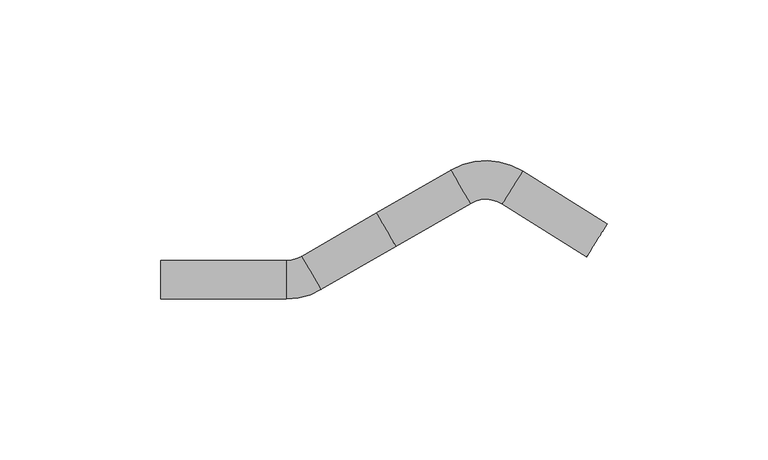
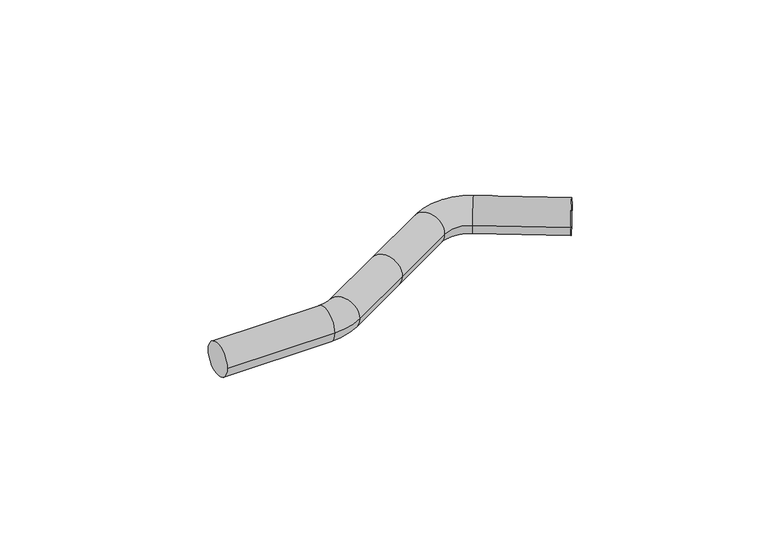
"""IFC4 building model written with IfcOpenShell, lengths in millimetres: pipe fitting geometry, KAN-therm Steel obejście : KAN-therm Steel obejście."""

from ifc_helpers import new_model, si_unit, point, frame, origin, place, context, project, spatial, circle_curve, ellipse_curve, trimmed, source, transform, mapped, element, save
from ifc_brep_helpers import plane_surface, cylinder_surface, revolved_surface, advanced_brep


def pipe_fitting_25d2a00c(model_context):
    return source(origin(), model_context, "Body", "AdvancedBrep", [
        advanced_brep(
        [(0.0, -6.0, 0.0), (0.0, 6.0, 0.0), (39.0, -6.0, 0.0), (39.0, 6.0, 0.0), (43.75, 7.2727587, 0.0), (49.75, -3.1195462, 0.0), (112.4044558, 33.726036, 0.0), (90.25, 34.1195462, 0.0), (96.25, 23.7272413, 0.0), (106.0391781, 23.5533648, 0.0), (132.3192079, 7.1120792, 0.0), (138.6837228, 17.2852277, 0.0), (73.0, 10.3038476, 0.0), (67.0, 20.6961524, 0.0)],
        [
            (0, 1, circle_curve(frame((0.0, 0.0, 0.0), z_axis=(-1.0, 0.0, 0.0), x_axis=(0.0, 1.0, 0.0)), 6.0)),
            (1, 0, circle_curve(frame((0.0, 0.0, 0.0), z_axis=(-1.0, 0.0, 0.0), x_axis=(0.0, 1.0, 0.0)), 6.0)),
            (0, 2),
            (2, 3, circle_curve(frame((39.0, 0.0, 0.0), z_axis=(-1.0, 0.0, 0.0), x_axis=(0.0, 1.0, 0.0)), 6.0)),
            (3, 1),
            (3, 2, circle_curve(frame((39.0, 0.0, 0.0), z_axis=(-1.0, 0.0, 0.0), x_axis=(0.0, 1.0, 0.0)), 6.0)),
            (4, 3, circle_curve(frame((39.0, 15.5, 0.0), z_axis=(0.0, 0.0, -1.0), x_axis=(0.0, -1.0, 0.0)), 9.5)),
            (2, 5, circle_curve(frame((39.0, 15.5, 0.0), z_axis=(0.0, 0.0, 1.0), x_axis=(0.0, -1.0, 0.0)), 21.5)),
            (5, 4, circle_curve(frame((46.75, 2.0766062, 0.0), z_axis=(-0.8660254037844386, -0.5000000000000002, 0.0), x_axis=(-0.5000000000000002, 0.8660254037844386, 0.0)), 6.0)),
            (4, 5, circle_curve(frame((46.75, 2.0766062, 0.0), z_axis=(-0.8660254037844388, -0.49999999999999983, 0.0), x_axis=(-0.49999999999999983, 0.8660254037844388, 0.0)), 6.0)),
            (6, 7, circle_curve(frame((101.0, 15.5, 0.0), z_axis=(0.0, 0.0, 1.0), x_axis=(-0.500000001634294, 0.8660254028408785, 0.0)), 21.5)),
            (7, 8, circle_curve(frame((93.25, 28.9233938, 0.0), z_axis=(0.8660254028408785, 0.500000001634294, 0.0), x_axis=(-0.500000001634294, 0.8660254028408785, 0.0)), 6.0)),
            (8, 9, circle_curve(frame((101.0, 15.5, 0.0), z_axis=(0.0, 0.0, -1.0), x_axis=(-0.500000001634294, 0.8660254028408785, 0.0)), 9.5)),
            (9, 6, circle_curve(frame((109.221817, 28.6397004, 0.0), z_axis=(-0.8477226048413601, 0.5304398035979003, 0.0), x_axis=(0.5304398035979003, 0.8477226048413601, 0.0)), 6.0)),
            (8, 7, circle_curve(frame((93.25, 28.9233938, 0.0), z_axis=(0.8660254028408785, 0.500000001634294, 0.0), x_axis=(-0.500000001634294, 0.8660254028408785, 0.0)), 6.0)),
            (6, 9, circle_curve(frame((109.221817, 28.6397004, 0.0), z_axis=(-0.8477226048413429, 0.5304398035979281, 0.0), x_axis=(0.5304398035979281, 0.8477226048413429, 0.0)), 6.0)),
            (10, 11, circle_curve(frame((135.5014653, 12.1986535, 0.0), z_axis=(0.8477623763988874, -0.5303762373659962, 0.0), x_axis=(0.5303762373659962, 0.8477623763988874, 0.0)), 6.0)),
            (11, 10, circle_curve(frame((135.5014653, 12.1986535, 0.0), z_axis=(0.8477623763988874, -0.5303762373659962, 0.0), x_axis=(0.5303762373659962, 0.8477623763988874, 0.0)), 6.0)),
            (9, 10),
            (11, 6),
            (5, 12),
            (12, 13, circle_curve(frame((70.0, 15.5, 0.0), z_axis=(-0.8660254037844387, -0.5000000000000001, 0.0), x_axis=(-0.5000000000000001, 0.8660254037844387, 0.0)), 6.0)),
            (13, 4),
            (13, 12, circle_curve(frame((70.0, 15.5, 0.0), z_axis=(-0.8660254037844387, -0.5000000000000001, 0.0), x_axis=(-0.5000000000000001, 0.8660254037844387, 0.0)), 6.0)),
            (12, 8),
            (7, 13),
        ],
        [
            plane_surface(frame((0.0, 0.0, 0.0), z_axis=(-1.0, 0.0, 0.0), x_axis=(0.0, 0.0, 1.0))),
            cylinder_surface(frame((0.0, 0.0, 0.0), z_axis=(-1.0, 0.0, 0.0), x_axis=(0.0, 1.0, 0.0)), 6.0),
            revolved_surface(trimmed(ellipse_curve(frame((39.0, 0.0, 0.0), z_axis=(-1.0, 0.0, 0.0), x_axis=(0.0, 1.0, 0.0)), 6.0, 6.0), [point((39.0, -6.0, 0.0))], [point((39.0, 6.0, 0.0))], True, "CARTESIAN"), (39.0, 15.5, 0.0), (0.0, 0.0, 1.0)),
            revolved_surface(trimmed(ellipse_curve(frame((39.0, 0.0, 0.0), z_axis=(-1.0, 0.0, 0.0), x_axis=(0.0, 1.0, 0.0)), 6.0, 6.0), [point((39.0, 6.0, 0.0))], [point((39.0, -6.0, 0.0))], True, "CARTESIAN"), (39.0, 15.5, 0.0), (0.0, 0.0, 1.0)),
            revolved_surface(trimmed(ellipse_curve(frame((93.25, 28.9233938, 0.0), z_axis=(-0.8660254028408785, -0.500000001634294, 0.0), x_axis=(-0.500000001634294, 0.8660254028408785, 0.0)), 6.0, 6.0), [point((96.25, 23.7272413, 0.0))], [point((90.25, 34.1195462, 0.0))], True, "CARTESIAN"), (101.0, 15.5, 0.0), (0.0, 0.0, -1.0)),
            revolved_surface(trimmed(ellipse_curve(frame((93.25, 28.9233938, 0.0), z_axis=(-0.8660254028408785, -0.500000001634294, 0.0), x_axis=(-0.500000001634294, 0.8660254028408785, 0.0)), 6.0, 6.0), [point((90.25, 34.1195462, 0.0))], [point((96.25, 23.7272413, 0.0))], True, "CARTESIAN"), (101.0, 15.5, 0.0), (0.0, 0.0, -1.0)),
            plane_surface(frame((135.5014653, 12.1986535, 0.0), z_axis=(0.8477623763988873, -0.530376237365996, 0.0), x_axis=(0.0, 0.0, 1.0))),
            cylinder_surface(frame((109.221817, 28.6397004, 0.0), z_axis=(-0.8477623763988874, 0.5303762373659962, 0.0), x_axis=(0.5303762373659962, 0.8477623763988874, 0.0)), 6.0),
            cylinder_surface(frame((46.75, 2.0766062, 0.0), z_axis=(-0.8660254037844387, -0.5000000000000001, 0.0), x_axis=(-0.5000000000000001, 0.8660254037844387, 0.0)), 6.0),
            cylinder_surface(frame((70.0, 15.5, 0.0), z_axis=(-0.8660254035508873, -0.5000000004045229, 0.0), x_axis=(-0.5000000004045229, 0.8660254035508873, 0.0)), 6.0),
        ],
        [
            (0, [[1, 2]]),
            (1, [[-1, 3, 4, 5]]),
            (1, [[-2, -5, 6, -3]]),
            (2, [[7, -4, 8, 9]]),
            (3, [[-8, -6, -7, 10]]),
            (4, [[11, 12, 13, 14]]),
            (5, [[-13, 15, -11, 16]]),
            (6, [[17, 18]]),
            (7, [[-14, 19, -18, 20]]),
            (7, [[-16, -20, -17, -19]]),
            (8, [[-9, 21, 22, 23]]),
            (8, [[-10, -23, 24, -21]]),
            (9, [[-22, 25, -12, 26]]),
            (9, [[-24, -26, -15, -25]]),
        ],
    ),
    ])


if __name__ == "__main__":
    model = new_model("IFC4")
    model_context = context("Model", 3, world=origin())
    ifc_project = project(units=[si_unit("LENGTHUNIT", "METRE", prefix="MILLI")], contexts=[model_context])
    site = spatial("IfcSite", under=ifc_project)
    building = spatial("IfcBuilding", under=site)
    placement = place(None, origin())
    pipe_fitting_shape = pipe_fitting_25d2a00c(model_context)
    element("IfcPipeFitting", 1, ObjectType="KAN-therm Steel obejście : KAN-therm Steel obejście", at=placement, inside=building, context=model_context, shape_type="MappedRepresentation", body=[
        mapped(pipe_fitting_shape, transform((0.0, 0.0, 0.0), x_axis=(1.0, 0.0, 0.0), y_axis=(0.0, 1.0, 0.0), z_axis=(0.0, 0.0, 1.0))),
    ])
    save(model, "model.ifc")
